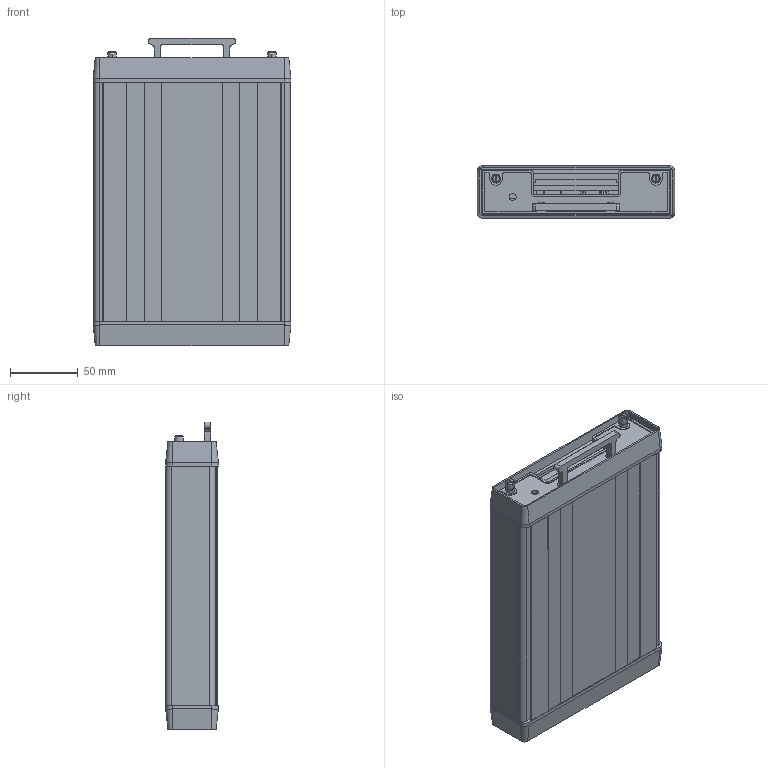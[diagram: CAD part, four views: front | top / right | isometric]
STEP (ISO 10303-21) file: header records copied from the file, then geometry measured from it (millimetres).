
FILE_DESCRIPTION((''),'2;1');
FILE_NAME('CU_USB_DAQPAD_SCREW_SMALL','2007-08-28T',('jpearson'),(''),'PRO/ENGINEER BY PARAMETRIC TECHNOLOGY CORPORATION, 2006080','PRO/ENGINEER BY PARAMETRIC TECHNOLOGY CORPORATION, 2006080','');
FILE_SCHEMA(('CONFIG_CONTROL_DESIGN'));
Length unit declared in the file: inch
Products named in the file (1): CU_USB_DAQPAD_SCREW_SMALL
Bounding box: 146 x 38.86 x 227.13 mm (x, y, z)
Volume: 165844.7 mm3; surface area: 211946.9 mm2
Topology: 5 solids, 5 shells, 1068 faces, 2882 edges, 1757 vertices
Faces by surface type: plane 640, cylinder 260, bspline 116, cone 28, torus 14, sphere 10
Entity records: 35430 total; most frequent: CARTESIAN_POINT 9358, ORIENTED_EDGE 5556, DIRECTION 5142, EDGE_CURVE 2778, VERTEX_POINT 1852, VECTOR 1802, LINE 1802, AXIS2_PLACEMENT_3D 1670
